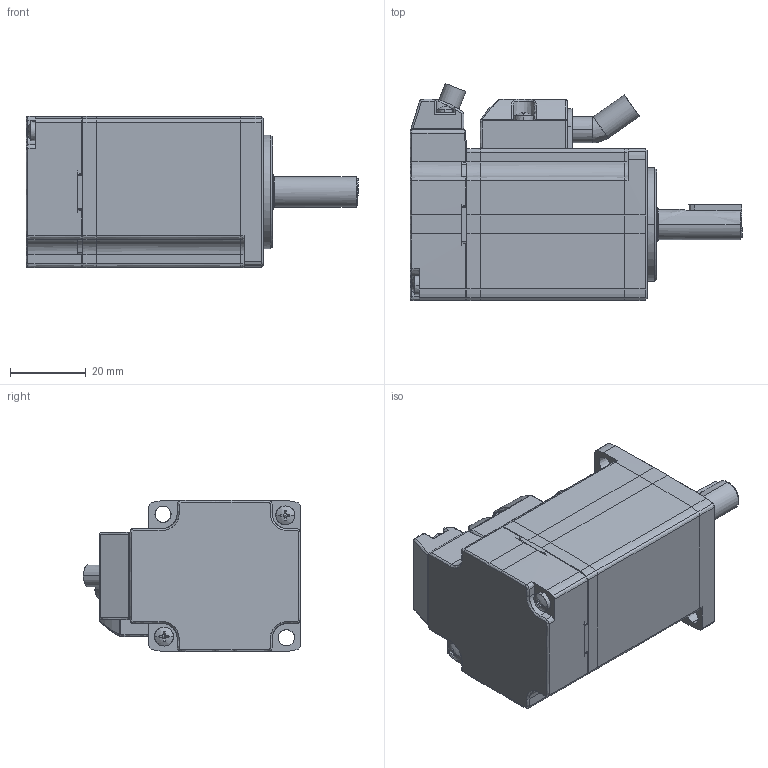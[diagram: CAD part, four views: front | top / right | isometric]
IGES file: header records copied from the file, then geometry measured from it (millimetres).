
Global section: file name: G:\00 graphics WIP\DX web info\3D drawings of EM3A\MXL-A5A0430LA222\MXL-A5A0430LA222.igs; native system: Rhinoceros ( May 22 2017 ); preprocessor: Trout Lake IGES 012 May 22 2017; author: Trio-MK; date: 200721.144519; units: millimetre
Bounding box: 87.5 x 57.22 x 40 mm (x, y, z)
Surface area: 19618.8 mm2 (no closed solid volume)
Topology: 0 solids, 0 shells, 516 faces, 5579 edges, 5561 vertices
Faces by surface type: bspline 516
